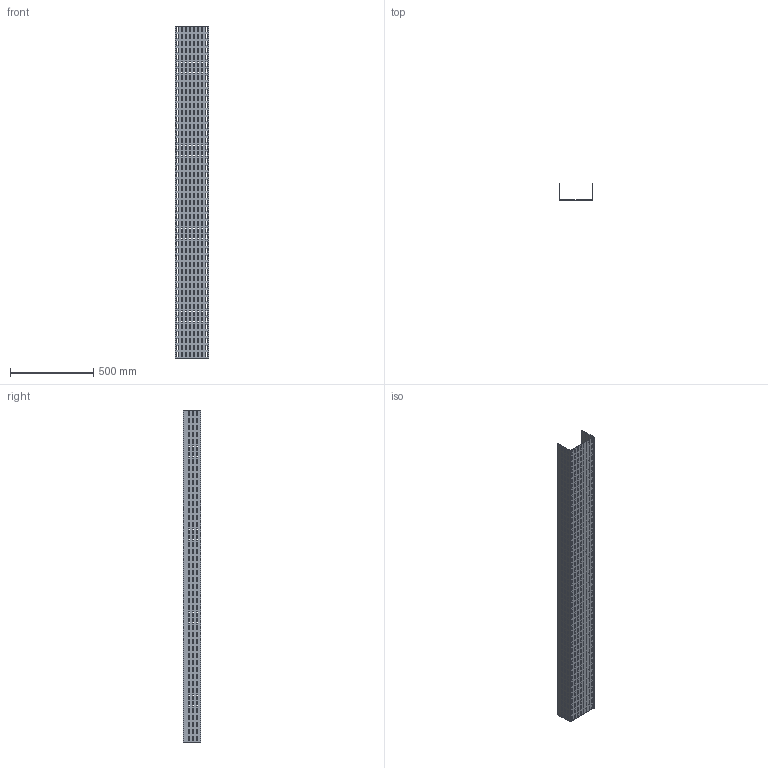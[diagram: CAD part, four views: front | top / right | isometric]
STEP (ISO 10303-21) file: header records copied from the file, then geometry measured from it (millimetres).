
FILE_DESCRIPTION (( 'STEP AP214' ), '1' );
FILE_NAME ('01F2D200.step', '2025-02-21T13:09:05', ( '' ), ( '' ), 'SwSTEP 2.0', 'SolidWorks 2023', '' );
FILE_SCHEMA (( 'AUTOMOTIVE_DESIGN' ));
Length unit declared in the file: millimetre
Products named in the file (1): 01F2D200
Bounding box: 204 x 104 x 2000 mm (x, y, z)
Volume: 2423400 mm3; surface area: 1552163 mm2
Topology: 1 solids, 1 shells, 2698 faces, 8088 edges, 5392 vertices
Faces by surface type: plane 2698
Entity records: 91703 total; most frequent: CARTESIAN_POINT 16179, ORIENTED_EDGE 16176, DIRECTION 13486, EDGE_CURVE 8088, VECTOR 8088, LINE 8088, VERTEX_POINT 5392, EDGE_LOOP 4042
